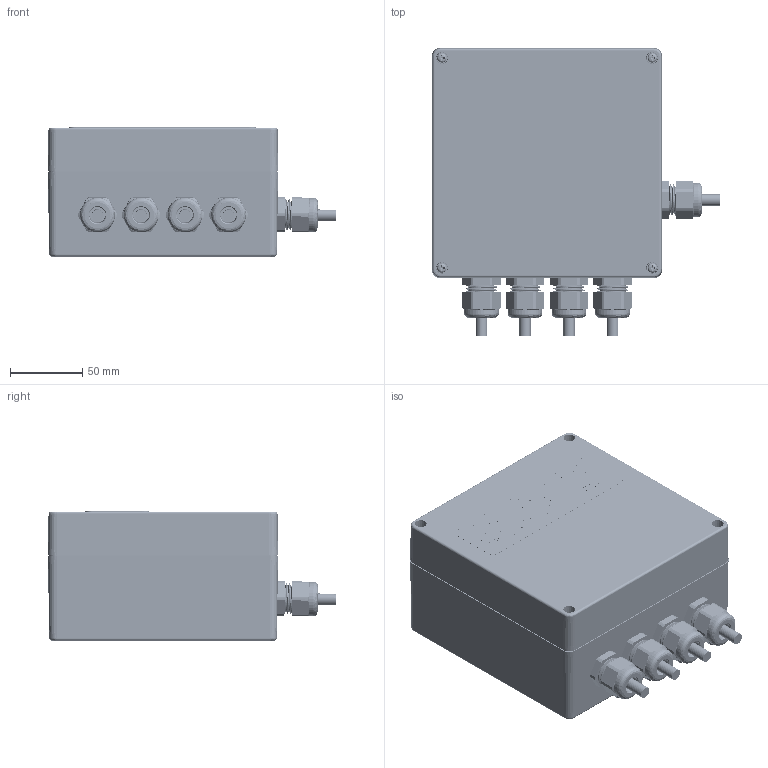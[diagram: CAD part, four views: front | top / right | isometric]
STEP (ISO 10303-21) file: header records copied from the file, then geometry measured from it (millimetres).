
FILE_DESCRIPTION (( 'STEP AP203' ), '1' );
FILE_NAME ('HI6010JB-PC2.STEP', '2021-06-08T00:22:45', ( '' ), ( '' ), 'SwSTEP 2.0', 'SolidWorks 2020', '' );
FILE_SCHEMA (( 'CONFIG_CONTROL_DESIGN' ));
Length unit declared in the file: inch
Products named in the file (18): 2814-0095-0; 0508-0910_SCREW_M3X6_92000A116; 0529-0024-01-0; 2101-0167-0; 0508-0911-01-0; 0508-0910-BOTTOM-COVER; 0530-0797-01-0; 0534-0562-01-0; 0535-0562-XX-0; 0508-0910-SCREWS-SS-M4X20; 0530-0799-01-0; 0508-0910-TOP-COVER; 4617-0010-0; 0508-0910-01-0; HI6010JB-PC2; 0508-0910-GASKET; 2815-0174-0; 6007-0097-0
Assembly tree (45 placements, depth 3):
  HI6010JB-PC2
    0535-0562-XX-0
      0534-0562-01-0
      2101-0167-0  x5
      4617-0010-0  x4
    0508-0910-01-0
      0508-0910-BOTTOM-COVER
      0508-0910-GASKET
      0508-0910-TOP-COVER
      0508-0910-SCREWS-SS-M4X20  x4
      0508-0910_SCREW_M3X6_92000A116  x4
    0508-0911-01-0
    2815-0174-0  x4
    6007-0097-0  x5
    2814-0095-0  x5
    0529-0024-01-0  x5
    0530-0797-01-0
    0530-0799-01-0
Bounding box: 199.96 x 199.86 x 89.53 mm (x, y, z)
Volume: 495046.4 mm3; surface area: 403840.6 mm2
Topology: 265 solids, 269 shells, 7467 faces, 19350 edges, 12673 vertices
Faces by surface type: plane 4009, cylinder 1627, bspline 1358, cone 401, torus 64, sphere 8
Entity records: 167414 total; most frequent: CARTESIAN_POINT 53453, ORIENTED_EDGE 25142, DIRECTION 18757, EDGE_CURVE 12571, VERTEX_POINT 8301, LINE 7775, VECTOR 7775, AXIS2_PLACEMENT_3D 5491
